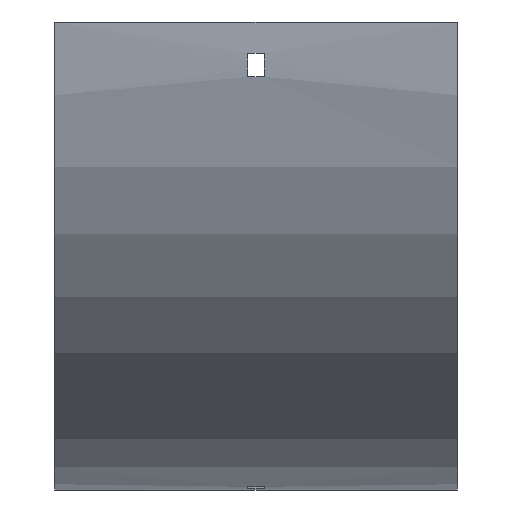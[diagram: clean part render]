
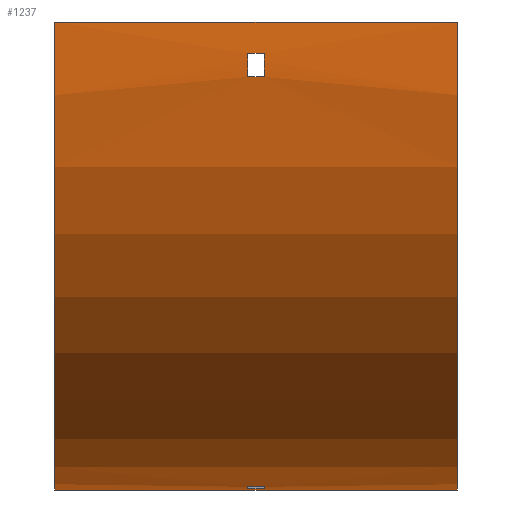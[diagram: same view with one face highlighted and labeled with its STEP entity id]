
A CAD part, front view. The second image highlights one B-rep face of the part: STEP entity #1237.
In plain terms, the highlighted cylindrical face has radius 179 mm (diameter 358 mm), a partial arc.
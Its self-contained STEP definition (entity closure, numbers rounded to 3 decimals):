
#49 = AXIS2_PLACEMENT_3D ( 'NONE', #933, #169, #1204 ) ;
#52 = DIRECTION ( 'NONE',  ( 0., 0., -1. ) ) ;
#62 = DIRECTION ( 'NONE',  ( 0., 0., -1. ) ) ;
#68 = ORIENTED_EDGE ( 'NONE', *, *, #1467, .T. ) ;
#83 = CARTESIAN_POINT ( 'NONE',  ( -77., 100., 0. ) ) ;
#91 = CARTESIAN_POINT ( 'NONE',  ( -3.25, -77.764, -21. ) ) ;
#138 = CARTESIAN_POINT ( 'NONE',  ( -3.25, 79., -177.764 ) ) ;
#145 = DIRECTION ( 'NONE',  ( -1., 0., 0. ) ) ;
#147 = EDGE_CURVE ( 'NONE', #257, #1095, #1037, .T. ) ;
#162 = CIRCLE ( 'NONE', #1111, 179. ) ;
#169 = DIRECTION ( 'NONE',  ( -1., 0., 0. ) ) ;
#186 = DIRECTION ( 'NONE',  ( -1., 0., 0. ) ) ;
#192 = VERTEX_POINT ( 'NONE', #138 ) ;
#218 = CIRCLE ( 'NONE', #49, 179. ) ;
#224 = CARTESIAN_POINT ( 'NONE',  ( 77., -79., 0. ) ) ;
#226 = CARTESIAN_POINT ( 'NONE',  ( 77., -78.597, -12. ) ) ;
#236 = CARTESIAN_POINT ( 'NONE',  ( 3.25, -77.764, -21. ) ) ;
#257 = VERTEX_POINT ( 'NONE', #663 ) ;
#315 = DIRECTION ( 'NONE',  ( 0., 0., -1. ) ) ;
#319 = CIRCLE ( 'NONE', #1440, 179. ) ;
#323 = CARTESIAN_POINT ( 'NONE',  ( -3.25, 100., 0. ) ) ;
#345 = VECTOR ( 'NONE', #823, 1000. ) ;
#367 = EDGE_CURVE ( 'NONE', #1420, #1581, #1369, .T. ) ;
#370 = CARTESIAN_POINT ( 'NONE',  ( 77., 100., 0. ) ) ;
#392 = ORIENTED_EDGE ( 'NONE', *, *, #740, .T. ) ;
#399 = ORIENTED_EDGE ( 'NONE', *, *, #1114, .F. ) ;
#441 = EDGE_LOOP ( 'NONE', ( #1143, #1621, #536, #1151 ) ) ;
#453 = VERTEX_POINT ( 'NONE', #224 ) ;
#456 = VERTEX_POINT ( 'NONE', #1145 ) ;
#492 = VERTEX_POINT ( 'NONE', #236 ) ;
#527 = LINE ( 'NONE', #1339, #1409 ) ;
#536 = ORIENTED_EDGE ( 'NONE', *, *, #1009, .F. ) ;
#537 = VERTEX_POINT ( 'NONE', #998 ) ;
#538 = CIRCLE ( 'NONE', #1527, 179. ) ;
#570 = VECTOR ( 'NONE', #1490, 1000. ) ;
#595 = DIRECTION ( 'NONE',  ( 1., 0., 0. ) ) ;
#611 = CARTESIAN_POINT ( 'NONE',  ( 77., 100., -179. ) ) ;
#627 = VERTEX_POINT ( 'NONE', #1568 ) ;
#633 = FACE_BOUND ( 'NONE', #441, .T. ) ;
#640 = DIRECTION ( 'NONE',  ( -1., 0., 0. ) ) ;
#650 = EDGE_LOOP ( 'NONE', ( #392, #68, #703, #1098 ) ) ;
#663 = CARTESIAN_POINT ( 'NONE',  ( -3.25, -78.597, -12. ) ) ;
#703 = ORIENTED_EDGE ( 'NONE', *, *, #147, .T. ) ;
#707 = AXIS2_PLACEMENT_3D ( 'NONE', #323, #1619, #1636 ) ;
#708 = EDGE_CURVE ( 'NONE', #627, #192, #1632, .T. ) ;
#740 = EDGE_CURVE ( 'NONE', #492, #1199, #1227, .T. ) ;
#774 = DIRECTION ( 'NONE',  ( 0., 0., 1. ) ) ;
#779 = VECTOR ( 'NONE', #1115, 1000. ) ;
#790 = CARTESIAN_POINT ( 'NONE',  ( -3.25, 88., -178.597 ) ) ;
#822 = ORIENTED_EDGE ( 'NONE', *, *, #1107, .F. ) ;
#823 = DIRECTION ( 'NONE',  ( -1., 0., 0. ) ) ;
#846 = DIRECTION ( 'NONE',  ( 1., 0., 0. ) ) ;
#890 = ORIENTED_EDGE ( 'NONE', *, *, #1372, .T. ) ;
#915 = EDGE_LOOP ( 'NONE', ( #1176, #822, #399, #890 ) ) ;
#924 = CIRCLE ( 'NONE', #1411, 179. ) ;
#933 = CARTESIAN_POINT ( 'NONE',  ( 3.25, 100., 0. ) ) ;
#947 = VECTOR ( 'NONE', #1676, 1000. ) ;
#968 = LINE ( 'NONE', #611, #570 ) ;
#998 = CARTESIAN_POINT ( 'NONE',  ( -77., 100., -179. ) ) ;
#1009 = EDGE_CURVE ( 'NONE', #1581, #627, #218, .T. ) ;
#1030 = CYLINDRICAL_SURFACE ( 'NONE', #1607, 179. ) ;
#1037 = LINE ( 'NONE', #226, #947 ) ;
#1093 = CARTESIAN_POINT ( 'NONE',  ( 77., 88., -178.597 ) ) ;
#1094 = CARTESIAN_POINT ( 'NONE',  ( 3.25, 100., 0. ) ) ;
#1095 = VERTEX_POINT ( 'NONE', #1374 ) ;
#1097 = DIRECTION ( 'NONE',  ( 1., 0., 0. ) ) ;
#1098 = ORIENTED_EDGE ( 'NONE', *, *, #1616, .T. ) ;
#1100 = CARTESIAN_POINT ( 'NONE',  ( 77., 79., -177.764 ) ) ;
#1107 = EDGE_CURVE ( 'NONE', #456, #537, #968, .T. ) ;
#1111 = AXIS2_PLACEMENT_3D ( 'NONE', #1610, #1457, #1332 ) ;
#1114 = EDGE_CURVE ( 'NONE', #453, #456, #538, .T. ) ;
#1115 = DIRECTION ( 'NONE',  ( 1., 0., 0. ) ) ;
#1127 = EDGE_CURVE ( 'NONE', #1222, #537, #319, .T. ) ;
#1134 = CARTESIAN_POINT ( 'NONE',  ( -77., -79., 0. ) ) ;
#1143 = ORIENTED_EDGE ( 'NONE', *, *, #1536, .F. ) ;
#1145 = CARTESIAN_POINT ( 'NONE',  ( 77., 100., -179. ) ) ;
#1151 = ORIENTED_EDGE ( 'NONE', *, *, #367, .F. ) ;
#1176 = ORIENTED_EDGE ( 'NONE', *, *, #1127, .T. ) ;
#1193 = VECTOR ( 'NONE', #186, 1000. ) ;
#1199 = VERTEX_POINT ( 'NONE', #91 ) ;
#1204 = DIRECTION ( 'NONE',  ( 0., 0., 1. ) ) ;
#1222 = VERTEX_POINT ( 'NONE', #1134 ) ;
#1227 = LINE ( 'NONE', #1337, #1193 ) ;
#1237 = ADVANCED_FACE ( 'NONE', ( #1416, #1556, #633 ), #1030, .T. ) ;
#1332 = DIRECTION ( 'NONE',  ( 0., 0., 1. ) ) ;
#1337 = CARTESIAN_POINT ( 'NONE',  ( 77., -77.764, -21. ) ) ;
#1339 = CARTESIAN_POINT ( 'NONE',  ( 77., -79., 0. ) ) ;
#1369 = LINE ( 'NONE', #1093, #779 ) ;
#1372 = EDGE_CURVE ( 'NONE', #453, #1222, #527, .T. ) ;
#1374 = CARTESIAN_POINT ( 'NONE',  ( 3.25, -78.597, -12. ) ) ;
#1396 = CARTESIAN_POINT ( 'NONE',  ( 77., 100., 0. ) ) ;
#1409 = VECTOR ( 'NONE', #145, 1000. ) ;
#1411 = AXIS2_PLACEMENT_3D ( 'NONE', #1094, #846, #52 ) ;
#1416 = FACE_OUTER_BOUND ( 'NONE', #915, .T. ) ;
#1420 = VERTEX_POINT ( 'NONE', #790 ) ;
#1440 = AXIS2_PLACEMENT_3D ( 'NONE', #83, #1097, #315 ) ;
#1457 = DIRECTION ( 'NONE',  ( -1., 0., 0. ) ) ;
#1467 = EDGE_CURVE ( 'NONE', #1199, #257, #162, .T. ) ;
#1490 = DIRECTION ( 'NONE',  ( -1., 0., 0. ) ) ;
#1527 = AXIS2_PLACEMENT_3D ( 'NONE', #1396, #595, #62 ) ;
#1536 = EDGE_CURVE ( 'NONE', #192, #1420, #1578, .T. ) ;
#1556 = FACE_BOUND ( 'NONE', #650, .T. ) ;
#1568 = CARTESIAN_POINT ( 'NONE',  ( 3.25, 79., -177.764 ) ) ;
#1578 = CIRCLE ( 'NONE', #707, 179. ) ;
#1581 = VERTEX_POINT ( 'NONE', #1646 ) ;
#1607 = AXIS2_PLACEMENT_3D ( 'NONE', #370, #640, #774 ) ;
#1610 = CARTESIAN_POINT ( 'NONE',  ( -3.25, 100., 0. ) ) ;
#1616 = EDGE_CURVE ( 'NONE', #1095, #492, #924, .T. ) ;
#1619 = DIRECTION ( 'NONE',  ( 1., 0., 0. ) ) ;
#1621 = ORIENTED_EDGE ( 'NONE', *, *, #708, .F. ) ;
#1632 = LINE ( 'NONE', #1100, #345 ) ;
#1636 = DIRECTION ( 'NONE',  ( 0., 1., 0. ) ) ;
#1646 = CARTESIAN_POINT ( 'NONE',  ( 3.25, 88., -178.597 ) ) ;
#1676 = DIRECTION ( 'NONE',  ( 1., 0., 0. ) ) ;
